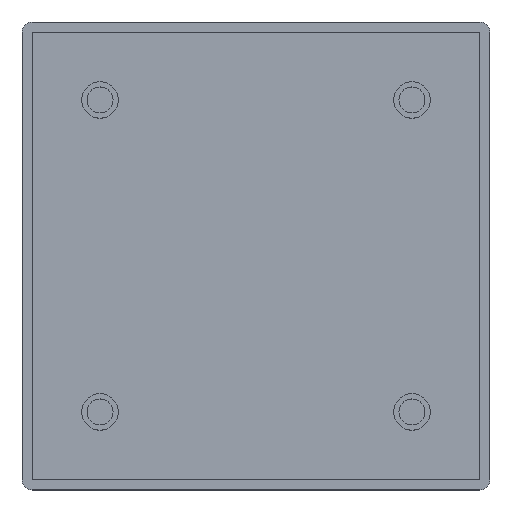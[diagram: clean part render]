
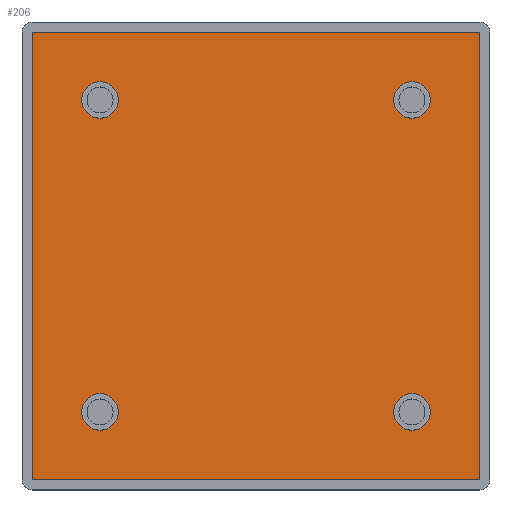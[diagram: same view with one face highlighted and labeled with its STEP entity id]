
A CAD part, top view. The second image highlights one B-rep face of the part: STEP entity #206.
In plain terms, the highlighted planar face has unit normal (0, 0, 1).
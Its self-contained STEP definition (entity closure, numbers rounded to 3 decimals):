
#4 = DIRECTION ( 'NONE',  ( 1., 0., 0. ) ) ;
#6 = CIRCLE ( 'NONE', #1126, 3.5 ) ;
#22 = FACE_OUTER_BOUND ( 'NONE', #1278, .T. ) ;
#58 = CARTESIAN_POINT ( 'NONE',  ( 43., -43., 0. ) ) ;
#75 = DIRECTION ( 'NONE',  ( 1., 0., 0. ) ) ;
#77 = CARTESIAN_POINT ( 'NONE',  ( 26.5, -30., 0. ) ) ;
#84 = FACE_BOUND ( 'NONE', #1083, .T. ) ;
#93 = CIRCLE ( 'NONE', #706, 3.5 ) ;
#102 = ORIENTED_EDGE ( 'NONE', *, *, #583, .F. ) ;
#109 = ORIENTED_EDGE ( 'NONE', *, *, #773, .F. ) ;
#117 = EDGE_CURVE ( 'NONE', #384, #686, #604, .T. ) ;
#129 = DIRECTION ( 'NONE',  ( 0., 0., 1. ) ) ;
#130 = AXIS2_PLACEMENT_3D ( 'NONE', #1229, #1098, #962 ) ;
#143 = EDGE_LOOP ( 'NONE', ( #1044, #927 ) ) ;
#150 = FACE_BOUND ( 'NONE', #1011, .T. ) ;
#152 = ORIENTED_EDGE ( 'NONE', *, *, #424, .F. ) ;
#155 = DIRECTION ( 'NONE',  ( 1., 0., 0. ) ) ;
#203 = DIRECTION ( 'NONE',  ( 0., 0., 1. ) ) ;
#204 = CIRCLE ( 'NONE', #538, 3.5 ) ;
#206 = ADVANCED_FACE ( 'NONE', ( #22, #150, #84, #392, #324 ), #648, .T. ) ;
#228 = DIRECTION ( 'NONE',  ( 1., 0., 0. ) ) ;
#247 = EDGE_LOOP ( 'NONE', ( #109, #408 ) ) ;
#270 = LINE ( 'NONE', #931, #1096 ) ;
#274 = ORIENTED_EDGE ( 'NONE', *, *, #746, .T. ) ;
#291 = DIRECTION ( 'NONE',  ( 0., 0., 1. ) ) ;
#297 = DIRECTION ( 'NONE',  ( 1., 0., 0. ) ) ;
#298 = CIRCLE ( 'NONE', #301, 3.5 ) ;
#301 = AXIS2_PLACEMENT_3D ( 'NONE', #687, #129, #4 ) ;
#324 = FACE_BOUND ( 'NONE', #247, .T. ) ;
#325 = DIRECTION ( 'NONE',  ( 0., 1., 0. ) ) ;
#338 = DIRECTION ( 'NONE',  ( 1., 0., 0. ) ) ;
#363 = DIRECTION ( 'NONE',  ( 0., 0., 1. ) ) ;
#384 = VERTEX_POINT ( 'NONE', #58 ) ;
#392 = FACE_BOUND ( 'NONE', #143, .T. ) ;
#408 = ORIENTED_EDGE ( 'NONE', *, *, #523, .F. ) ;
#424 = EDGE_CURVE ( 'NONE', #1013, #460, #204, .T. ) ;
#430 = CARTESIAN_POINT ( 'NONE',  ( 30., 30., 0. ) ) ;
#437 = VERTEX_POINT ( 'NONE', #819 ) ;
#439 = DIRECTION ( 'NONE',  ( 0., 0., 1. ) ) ;
#440 = DIRECTION ( 'NONE',  ( 1., 0., 0. ) ) ;
#452 = VERTEX_POINT ( 'NONE', #647 ) ;
#460 = VERTEX_POINT ( 'NONE', #1290 ) ;
#464 = CARTESIAN_POINT ( 'NONE',  ( 43., 45., 0. ) ) ;
#480 = CARTESIAN_POINT ( 'NONE',  ( -26.5, 30., 0. ) ) ;
#481 = DIRECTION ( 'NONE',  ( 0., 0., 1. ) ) ;
#482 = CARTESIAN_POINT ( 'NONE',  ( 30., -30., 0. ) ) ;
#505 = CARTESIAN_POINT ( 'NONE',  ( 0., 0., 0. ) ) ;
#506 = CIRCLE ( 'NONE', #1310, 3.5 ) ;
#523 = EDGE_CURVE ( 'NONE', #771, #974, #6, .T. ) ;
#532 = EDGE_CURVE ( 'NONE', #452, #864, #1129, .T. ) ;
#538 = AXIS2_PLACEMENT_3D ( 'NONE', #430, #291, #155 ) ;
#552 = EDGE_CURVE ( 'NONE', #686, #437, #270, .T. ) ;
#561 = VECTOR ( 'NONE', #858, 1000. ) ;
#570 = AXIS2_PLACEMENT_3D ( 'NONE', #505, #363, #228 ) ;
#576 = VERTEX_POINT ( 'NONE', #654 ) ;
#577 = CARTESIAN_POINT ( 'NONE',  ( -26.5, -30., 0. ) ) ;
#580 = DIRECTION ( 'NONE',  ( 0., 0., 1. ) ) ;
#583 = EDGE_CURVE ( 'NONE', #460, #1013, #1027, .T. ) ;
#604 = LINE ( 'NONE', #464, #714 ) ;
#647 = CARTESIAN_POINT ( 'NONE',  ( -33.5, 30., 0. ) ) ;
#648 = PLANE ( 'NONE',  #570 ) ;
#654 = CARTESIAN_POINT ( 'NONE',  ( -43., -43., 0. ) ) ;
#686 = VERTEX_POINT ( 'NONE', #1220 ) ;
#687 = CARTESIAN_POINT ( 'NONE',  ( 30., -30., 0. ) ) ;
#706 = AXIS2_PLACEMENT_3D ( 'NONE', #720, #439, #297 ) ;
#714 = VECTOR ( 'NONE', #325, 1000. ) ;
#720 = CARTESIAN_POINT ( 'NONE',  ( -30., -30., 0. ) ) ;
#721 = CARTESIAN_POINT ( 'NONE',  ( -30., -30., 0. ) ) ;
#736 = CARTESIAN_POINT ( 'NONE',  ( -33.5, -30., 0. ) ) ;
#746 = EDGE_CURVE ( 'NONE', #437, #576, #1156, .T. ) ;
#759 = DIRECTION ( 'NONE',  ( 1., 0., 0. ) ) ;
#767 = EDGE_CURVE ( 'NONE', #576, #384, #1124, .T. ) ;
#771 = VERTEX_POINT ( 'NONE', #577 ) ;
#773 = EDGE_CURVE ( 'NONE', #974, #771, #93, .T. ) ;
#793 = DIRECTION ( 'NONE',  ( -1., 0., 0. ) ) ;
#811 = AXIS2_PLACEMENT_3D ( 'NONE', #482, #203, #75 ) ;
#819 = CARTESIAN_POINT ( 'NONE',  ( -43., 43., 0. ) ) ;
#838 = EDGE_CURVE ( 'NONE', #871, #971, #298, .T. ) ;
#858 = DIRECTION ( 'NONE',  ( 1., 0., 0. ) ) ;
#862 = EDGE_CURVE ( 'NONE', #864, #452, #506, .T. ) ;
#864 = VERTEX_POINT ( 'NONE', #480 ) ;
#871 = VERTEX_POINT ( 'NONE', #1001 ) ;
#891 = DIRECTION ( 'NONE',  ( 0., -1., 0. ) ) ;
#899 = DIRECTION ( 'NONE',  ( 0., 0., 1. ) ) ;
#921 = ORIENTED_EDGE ( 'NONE', *, *, #552, .T. ) ;
#927 = ORIENTED_EDGE ( 'NONE', *, *, #838, .F. ) ;
#931 = CARTESIAN_POINT ( 'NONE',  ( -45., 43., 0. ) ) ;
#938 = ORIENTED_EDGE ( 'NONE', *, *, #532, .F. ) ;
#940 = AXIS2_PLACEMENT_3D ( 'NONE', #1028, #481, #338 ) ;
#962 = DIRECTION ( 'NONE',  ( 1., 0., 0. ) ) ;
#971 = VERTEX_POINT ( 'NONE', #77 ) ;
#974 = VERTEX_POINT ( 'NONE', #736 ) ;
#990 = CARTESIAN_POINT ( 'NONE',  ( -45., -43., 0. ) ) ;
#1001 = CARTESIAN_POINT ( 'NONE',  ( 33.5, -30., 0. ) ) ;
#1011 = EDGE_LOOP ( 'NONE', ( #938, #1219 ) ) ;
#1013 = VERTEX_POINT ( 'NONE', #1210 ) ;
#1020 = CARTESIAN_POINT ( 'NONE',  ( -43., 45., 0. ) ) ;
#1026 = CARTESIAN_POINT ( 'NONE',  ( -30., 30., 0. ) ) ;
#1027 = CIRCLE ( 'NONE', #940, 3.5 ) ;
#1028 = CARTESIAN_POINT ( 'NONE',  ( 30., 30., 0. ) ) ;
#1044 = ORIENTED_EDGE ( 'NONE', *, *, #1296, .F. ) ;
#1083 = EDGE_LOOP ( 'NONE', ( #152, #102 ) ) ;
#1096 = VECTOR ( 'NONE', #793, 1000. ) ;
#1098 = DIRECTION ( 'NONE',  ( 0., 0., 1. ) ) ;
#1124 = LINE ( 'NONE', #990, #561 ) ;
#1126 = AXIS2_PLACEMENT_3D ( 'NONE', #721, #580, #440 ) ;
#1129 = CIRCLE ( 'NONE', #130, 3.5 ) ;
#1137 = VECTOR ( 'NONE', #891, 1000. ) ;
#1156 = LINE ( 'NONE', #1020, #1137 ) ;
#1195 = CIRCLE ( 'NONE', #811, 3.5 ) ;
#1210 = CARTESIAN_POINT ( 'NONE',  ( 26.5, 30., 0. ) ) ;
#1219 = ORIENTED_EDGE ( 'NONE', *, *, #862, .F. ) ;
#1220 = CARTESIAN_POINT ( 'NONE',  ( 43., 43., 0. ) ) ;
#1229 = CARTESIAN_POINT ( 'NONE',  ( -30., 30., 0. ) ) ;
#1250 = ORIENTED_EDGE ( 'NONE', *, *, #767, .T. ) ;
#1278 = EDGE_LOOP ( 'NONE', ( #274, #1250, #1304, #921 ) ) ;
#1290 = CARTESIAN_POINT ( 'NONE',  ( 33.5, 30., 0. ) ) ;
#1296 = EDGE_CURVE ( 'NONE', #971, #871, #1195, .T. ) ;
#1304 = ORIENTED_EDGE ( 'NONE', *, *, #117, .T. ) ;
#1310 = AXIS2_PLACEMENT_3D ( 'NONE', #1026, #899, #759 ) ;
